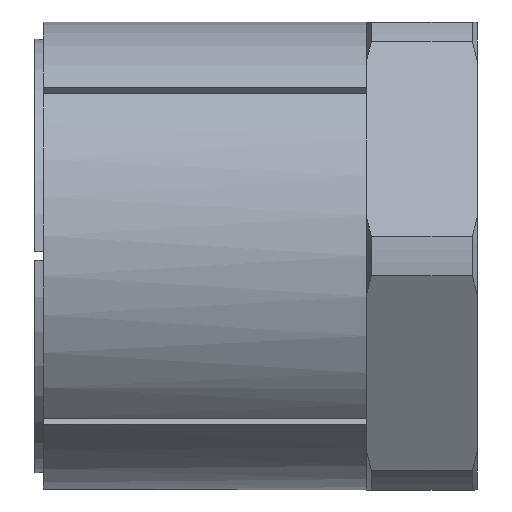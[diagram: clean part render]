
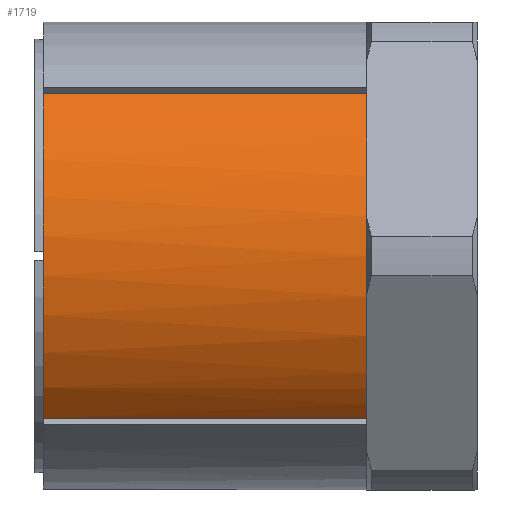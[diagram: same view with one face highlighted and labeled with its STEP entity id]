
A CAD part, front view. The second image highlights one B-rep face of the part: STEP entity #1719.
In plain terms, the highlighted cylindrical face has radius 27.5 mm (diameter 55 mm), a partial arc.
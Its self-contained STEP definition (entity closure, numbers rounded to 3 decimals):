
#290 = AXIS2_PLACEMENT_3D ( 'NONE', #1151, #1152, #1156 ) ;
#345 = EDGE_CURVE ( 'NONE', #2347, #2345, #1075, .T. ) ;
#349 = EDGE_CURVE ( 'NONE', #2345, #2319, #1077, .T. ) ;
#397 = EDGE_CURVE ( 'NONE', #2314, #2309, #1082, .T. ) ;
#403 = EDGE_CURVE ( 'NONE', #2309, #2347, #1095, .T. ) ;
#429 = AXIS2_PLACEMENT_3D ( 'NONE', #1240, #2540, #2539 ) ;
#442 = AXIS2_PLACEMENT_3D ( 'NONE', #1336, #1318, #1317 ) ;
#478 = AXIS2_PLACEMENT_3D ( 'NONE', #1364, #1363, #1361 ) ;
#490 = EDGE_CURVE ( 'NONE', #2319, #2348, #2638, .T. ) ;
#509 = EDGE_CURVE ( 'NONE', #2314, #2348, #2655, .T. ) ;
#516 = AXIS2_PLACEMENT_3D ( 'NONE', #1360, #1358, #1357 ) ;
#675 = CARTESIAN_POINT ( 'NONE',  ( 0., -19.796, 19.089 ) ) ;
#676 = CARTESIAN_POINT ( 'NONE',  ( 38., -23.816, -13.75 ) ) ;
#678 = CARTESIAN_POINT ( 'NONE',  ( 38., -23.816, 13.75 ) ) ;
#709 = CARTESIAN_POINT ( 'NONE',  ( 38., -19.796, 19.089 ) ) ;
#716 = CARTESIAN_POINT ( 'NONE',  ( 0., -19.796, -19.089 ) ) ;
#724 = CARTESIAN_POINT ( 'NONE',  ( 38., -19.796, -19.089 ) ) ;
#1075 = CIRCLE ( 'NONE', #478, 27.5 ) ;
#1077 = CIRCLE ( 'NONE', #516, 27.5 ) ;
#1082 = LINE ( 'NONE', #1321, #1085 ) ;
#1085 = VECTOR ( 'NONE', #1320, 1000. ) ;
#1095 = CIRCLE ( 'NONE', #442, 27.5 ) ;
#1151 = CARTESIAN_POINT ( 'NONE',  ( 0., 0., 0. ) ) ;
#1152 = DIRECTION ( 'NONE',  ( -1., 0., 0. ) ) ;
#1156 = DIRECTION ( 'NONE',  ( 0., 0., 1. ) ) ;
#1240 = CARTESIAN_POINT ( 'NONE',  ( 0., 0., 0. ) ) ;
#1260 = DIRECTION ( 'NONE',  ( -1., 0., 0. ) ) ;
#1261 = CARTESIAN_POINT ( 'NONE',  ( 0., -19.796, 19.089 ) ) ;
#1317 = DIRECTION ( 'NONE',  ( 0., 0., 1. ) ) ;
#1318 = DIRECTION ( 'NONE',  ( -1., 0., 0. ) ) ;
#1320 = DIRECTION ( 'NONE',  ( 1., 0., 0. ) ) ;
#1321 = CARTESIAN_POINT ( 'NONE',  ( 0., -19.796, -19.089 ) ) ;
#1336 = CARTESIAN_POINT ( 'NONE',  ( 38., 0., 0. ) ) ;
#1357 = DIRECTION ( 'NONE',  ( 0., 0., 1. ) ) ;
#1358 = DIRECTION ( 'NONE',  ( -1., 0., 0. ) ) ;
#1360 = CARTESIAN_POINT ( 'NONE',  ( 38., 0., 0. ) ) ;
#1361 = DIRECTION ( 'NONE',  ( 0., 0., 1. ) ) ;
#1363 = DIRECTION ( 'NONE',  ( -1., 0., 0. ) ) ;
#1364 = CARTESIAN_POINT ( 'NONE',  ( 38., 0., 0. ) ) ;
#1680 = EDGE_LOOP ( 'NONE', ( #1853, #1854, #1855, #1856, #1857, #1858 ) ) ;
#1719 = ADVANCED_FACE ( 'NONE', ( #2753 ), #2762, .T. ) ;
#1853 = ORIENTED_EDGE ( 'NONE', *, *, #349, .T. ) ;
#1854 = ORIENTED_EDGE ( 'NONE', *, *, #490, .T. ) ;
#1855 = ORIENTED_EDGE ( 'NONE', *, *, #509, .F. ) ;
#1856 = ORIENTED_EDGE ( 'NONE', *, *, #397, .T. ) ;
#1857 = ORIENTED_EDGE ( 'NONE', *, *, #403, .T. ) ;
#1858 = ORIENTED_EDGE ( 'NONE', *, *, #345, .T. ) ;
#2309 = VERTEX_POINT ( 'NONE', #724 ) ;
#2314 = VERTEX_POINT ( 'NONE', #716 ) ;
#2319 = VERTEX_POINT ( 'NONE', #709 ) ;
#2345 = VERTEX_POINT ( 'NONE', #678 ) ;
#2347 = VERTEX_POINT ( 'NONE', #676 ) ;
#2348 = VERTEX_POINT ( 'NONE', #675 ) ;
#2539 = DIRECTION ( 'NONE',  ( 0., 0., 1. ) ) ;
#2540 = DIRECTION ( 'NONE',  ( -1., 0., 0. ) ) ;
#2638 = LINE ( 'NONE', #1261, #2640 ) ;
#2640 = VECTOR ( 'NONE', #1260, 1000. ) ;
#2655 = CIRCLE ( 'NONE', #429, 27.5 ) ;
#2753 = FACE_OUTER_BOUND ( 'NONE', #1680, .T. ) ;
#2762 = CYLINDRICAL_SURFACE ( 'NONE', #290, 27.5 ) ;
